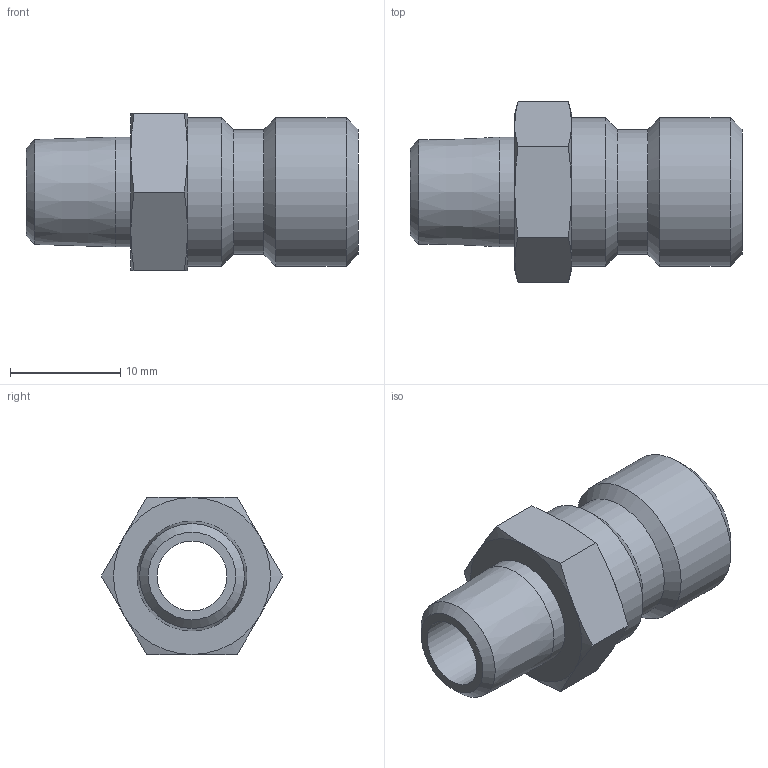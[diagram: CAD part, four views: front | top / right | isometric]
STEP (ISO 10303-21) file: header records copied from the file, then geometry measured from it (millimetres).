
FILE_DESCRIPTION(/* description */ ('STEP AP214'),/* implementation_level */ '2;1');
FILE_NAME(/* name */ 'JP-351',/* time_stamp */ '2024-12-19T08:35:05+01:00',/* author */ ('License CC BY-ND 4.0'),/* organization */ ('CADENAS'),/* preprocessor_version */ 'ST-DEVELOPER v19.3',/* originating_system */ 'PARTsolutions',/* authorisation */ ' ');
FILE_SCHEMA (('AUTOMOTIVE_DESIGN {1 0 10303 214 3 1 1}'));
Length unit declared in the file: inch
Products named in the file (1): JP-351
Bounding box: 30.18 x 16.48 x 14.27 mm (x, y, z)
Volume: 2692.1 mm3; surface area: 2046.7 mm2
Topology: 1 solids, 1 shells, 32 faces, 65 edges, 37 vertices
Faces by surface type: cone 17, plane 10, cylinder 5
Full cylindrical faces by diameter (mm): 6.35 x1, 9.985 x1, 11.351 x1, 13.513 x2
Entity records: 832 total; most frequent: CARTESIAN_POINT 197, DIRECTION 122, ORIENTED_EDGE 110, AXIS2_PLACEMENT_3D 58, EDGE_CURVE 55, EDGE_LOOP 46, FACE_BOUND 46, VERTEX_POINT 37
